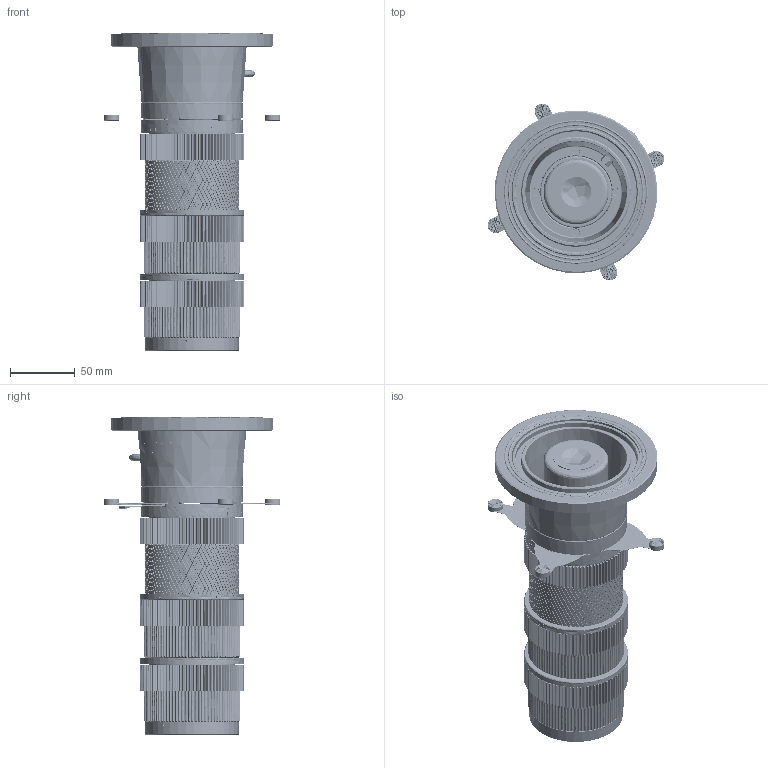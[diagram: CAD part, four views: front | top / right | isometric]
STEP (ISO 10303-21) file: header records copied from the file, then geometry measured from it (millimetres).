
FILE_DESCRIPTION (( 'STEP AP203' ), '1' );
FILE_NAME ('AF80_PlutoFresnel_PLS_3D_V2.STEP', '2023-12-13T09:17:22', ( '' ), ( '' ), 'SwSTEP 2.0', 'SolidWorks 2016', '' );
FILE_SCHEMA (( 'CONFIG_CONTROL_DESIGN' ));
Products named in the file (1): AF80_PlutoFresnel_PLS_3D_V2
Bounding box: 135.79 x 136.16 x 244.65 mm (x, y, z)
Surface area: 380127.6 mm2 (no closed solid volume)
Topology: 0 solids, 47 shells, 7542 faces, 20754 edges, 13569 vertices
Faces by surface type: bspline 2917, cylinder 2471, plane 1095, cone 995, torus 64
Entity records: 529764 total; most frequent: CARTESIAN_POINT 374567, ORIENTED_EDGE 40230, EDGE_CURVE 20709, DIRECTION 18198, B_SPLINE_CURVE_WITH_KNOTS 14055, VERTEX_POINT 13558, EDGE_LOOP 7959, FACE_OUTER_BOUND 7544
